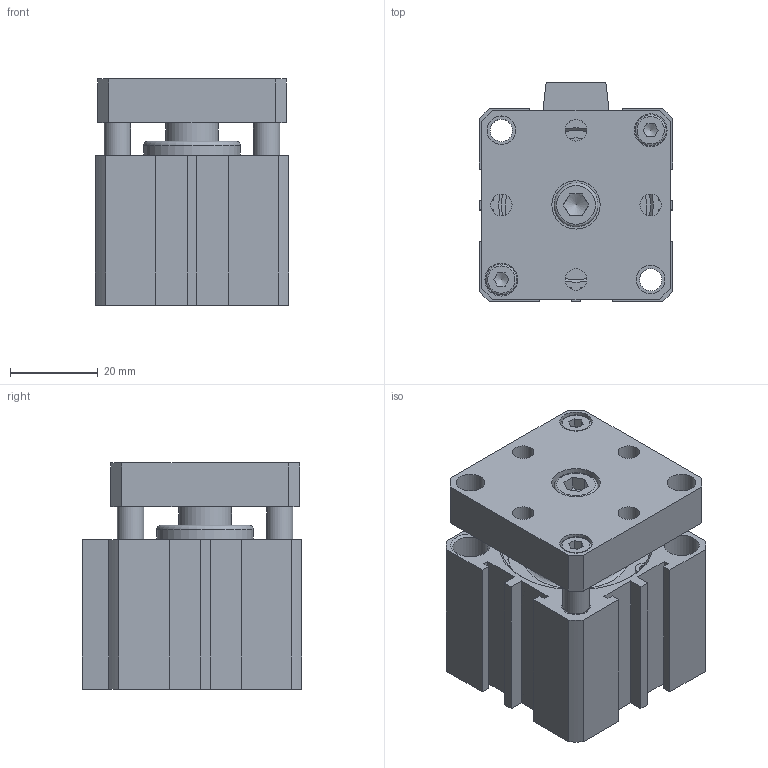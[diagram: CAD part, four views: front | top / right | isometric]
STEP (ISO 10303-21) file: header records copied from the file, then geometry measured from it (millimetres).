
FILE_DESCRIPTION((''),'2;1');
FILE_NAME('I:\3D電子目錄\氣缸\JTD\JTD\JTD32\JTD32x10.stp','2007-08-09T20:27:27',('Administrator'),(''),'Autodesk Inventor 11','Autodesk Inventor 11','');
FILE_SCHEMA(('AUTOMOTIVE_DESIGN { 1 0 10303 214 1 1 1 1 }'));
Length unit declared in the file: millimetre
Products named in the file (5): JTD32; R 形環 35; ISO 4762 M6 x 10; ISO 4762 M4 x 10
Assembly tree (6 placements, depth 2):
  JTD32
    JTD32
    R 形環 35  x2
    ISO 4762 M6 x 10
    ISO 4762 M4 x 10  x2
Bounding box: 44 x 50 x 51.5 mm (x, y, z)
Volume: 71769.7 mm3; surface area: 27023.6 mm2
Topology: 6 solids, 6 shells, 201 faces, 465 edges, 305 vertices
Faces by surface type: plane 114, cylinder 51, bspline 19, cone 12, torus 5
Full cylindrical faces by diameter (mm): 1.9 x4, 2.2 x2, 4 x2, 5.1 x2, 6 x3, 6.5 x4, 7 x2, 8 x4, 10 x1, 12 x1, 22 x1, 23 x1, 34 x4, 36 x2
Entity records: 5049 total; most frequent: CARTESIAN_POINT 1119, DIRECTION 784, ORIENTED_EDGE 684, EDGE_CURVE 342, AXIS2_PLACEMENT_3D 287, EDGE_LOOP 284, VERTEX_POINT 260, VECTOR 210
